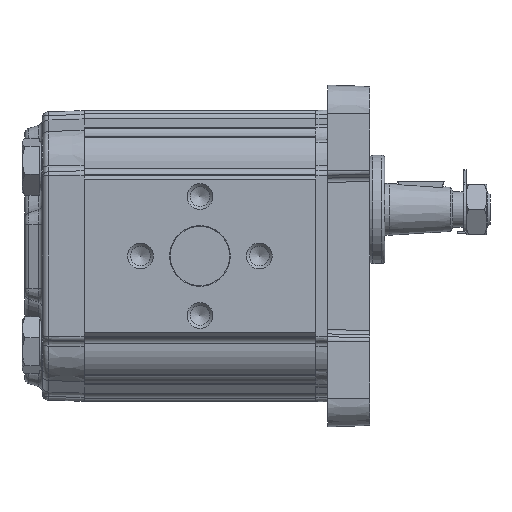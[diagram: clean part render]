
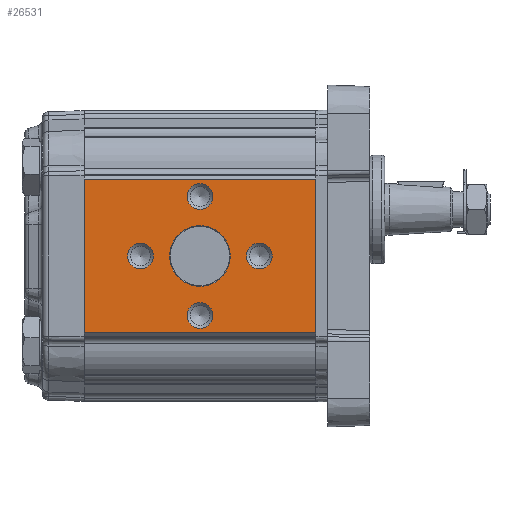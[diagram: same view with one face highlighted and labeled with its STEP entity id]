
A CAD part, left-side view. The second image highlights one B-rep face of the part: STEP entity #26531.
In plain terms, the highlighted planar face has unit normal (-1, 0, 0).
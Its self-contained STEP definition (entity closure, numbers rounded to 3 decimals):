
#1000=PLANE('',#27800);
#1519=CIRCLE('',#27801,10.2);
#1520=CIRCLE('',#27802,4.324);
#1521=CIRCLE('',#27803,4.324);
#1522=CIRCLE('',#27804,4.324);
#1523=CIRCLE('',#27805,4.324);
#3563=ORIENTED_EDGE('',*,*,#9248,.T.);
#3564=ORIENTED_EDGE('',*,*,#9249,.T.);
#3565=ORIENTED_EDGE('',*,*,#9250,.T.);
#3566=ORIENTED_EDGE('',*,*,#9251,.T.);
#3567=ORIENTED_EDGE('',*,*,#9252,.T.);
#3568=ORIENTED_EDGE('',*,*,#9253,.F.);
#3569=ORIENTED_EDGE('',*,*,#9254,.F.);
#3570=ORIENTED_EDGE('',*,*,#9255,.T.);
#3571=ORIENTED_EDGE('',*,*,#9256,.T.);
#9248=EDGE_CURVE('',#12210,#12210,#1519,.F.);
#9249=EDGE_CURVE('',#12211,#12211,#1520,.F.);
#9250=EDGE_CURVE('',#12212,#12212,#1521,.F.);
#9251=EDGE_CURVE('',#12213,#12213,#1522,.F.);
#9252=EDGE_CURVE('',#12214,#12214,#1523,.F.);
#9253=EDGE_CURVE('',#12215,#12216,#14073,.T.);
#9254=EDGE_CURVE('',#12217,#12215,#14074,.T.);
#9255=EDGE_CURVE('',#12217,#12218,#14075,.T.);
#9256=EDGE_CURVE('',#12218,#12216,#14076,.T.);
#12210=VERTEX_POINT('',#36929);
#12211=VERTEX_POINT('',#36931);
#12212=VERTEX_POINT('',#36933);
#12213=VERTEX_POINT('',#36935);
#12214=VERTEX_POINT('',#36937);
#12215=VERTEX_POINT('',#36939);
#12216=VERTEX_POINT('',#36940);
#12217=VERTEX_POINT('',#36942);
#12218=VERTEX_POINT('',#36944);
#14073=LINE('',#36938,#15382);
#14074=LINE('',#36941,#15383);
#14075=LINE('',#36943,#15384);
#14076=LINE('',#36945,#15385);
#15382=VECTOR('',#30712,1000.);
#15383=VECTOR('',#30713,1000.);
#15384=VECTOR('',#30714,1000.);
#15385=VECTOR('',#30715,1000.);
#16837=EDGE_LOOP('',(#3563));
#16838=EDGE_LOOP('',(#3564));
#16839=EDGE_LOOP('',(#3565));
#16840=EDGE_LOOP('',(#3566));
#16841=EDGE_LOOP('',(#3567));
#16842=EDGE_LOOP('',(#3568,#3569,#3570,#3571));
#18118=FACE_BOUND('',#16837,.T.);
#18119=FACE_BOUND('',#16838,.T.);
#18120=FACE_BOUND('',#16839,.T.);
#18121=FACE_BOUND('',#16840,.T.);
#18122=FACE_BOUND('',#16841,.T.);
#18123=FACE_BOUND('',#16842,.T.);
#26531=ADVANCED_FACE('',(#18118,#18119,#18120,#18121,#18122,#18123),#1000,
 .T.);
#27800=AXIS2_PLACEMENT_3D('',#36927,#30700,#30701);
#27801=AXIS2_PLACEMENT_3D('',#36928,#30702,#30703);
#27802=AXIS2_PLACEMENT_3D('',#36930,#30704,#30705);
#27803=AXIS2_PLACEMENT_3D('',#36932,#30706,#30707);
#27804=AXIS2_PLACEMENT_3D('',#36934,#30708,#30709);
#27805=AXIS2_PLACEMENT_3D('',#36936,#30710,#30711);
#30700=DIRECTION('',(-1.,0.,0.));
#30701=DIRECTION('',(0.,0.,1.));
#30702=DIRECTION('',(-1.,0.,0.));
#30703=DIRECTION('',(0.,0.,1.));
#30704=DIRECTION('',(-1.,0.,0.));
#30705=DIRECTION('',(0.,0.,1.));
#30706=DIRECTION('',(-1.,0.,0.));
#30707=DIRECTION('',(0.,0.,1.));
#30708=DIRECTION('',(-1.,0.,0.));
#30709=DIRECTION('',(0.,0.,1.));
#30710=DIRECTION('',(-1.,0.,0.));
#30711=DIRECTION('',(0.,0.,1.));
#30712=DIRECTION('',(0.,0.,-1.));
#30713=DIRECTION('',(0.,-1.,0.));
#30714=DIRECTION('',(0.,0.,-1.));
#30715=DIRECTION('',(0.,-1.,0.));
#36927=CARTESIAN_POINT('',(-45.,78.,25.912));
#36928=CARTESIAN_POINT('',(-45.,39.,0.));
#36929=CARTESIAN_POINT('',(-45.,39.,10.2));
#36930=CARTESIAN_POINT('',(-45.,39.,-20.));
#36931=CARTESIAN_POINT('',(-45.,39.,-15.677));
#36932=CARTESIAN_POINT('',(-45.,59.,0.));
#36933=CARTESIAN_POINT('',(-45.,59.,4.323));
#36934=CARTESIAN_POINT('',(-45.,19.,0.));
#36935=CARTESIAN_POINT('',(-45.,19.,4.323));
#36936=CARTESIAN_POINT('',(-45.,39.,20.));
#36937=CARTESIAN_POINT('',(-45.,39.,24.324));
#36938=CARTESIAN_POINT('',(-45.,0.,25.912));
#36939=CARTESIAN_POINT('',(-45.,0.,25.912));
#36940=CARTESIAN_POINT('',(-45.,0.,-25.912));
#36941=CARTESIAN_POINT('',(-45.,78.,25.912));
#36942=CARTESIAN_POINT('',(-45.,78.,25.912));
#36943=CARTESIAN_POINT('',(-45.,78.,25.912));
#36944=CARTESIAN_POINT('',(-45.,78.,-25.912));
#36945=CARTESIAN_POINT('',(-45.,78.,-25.912));
